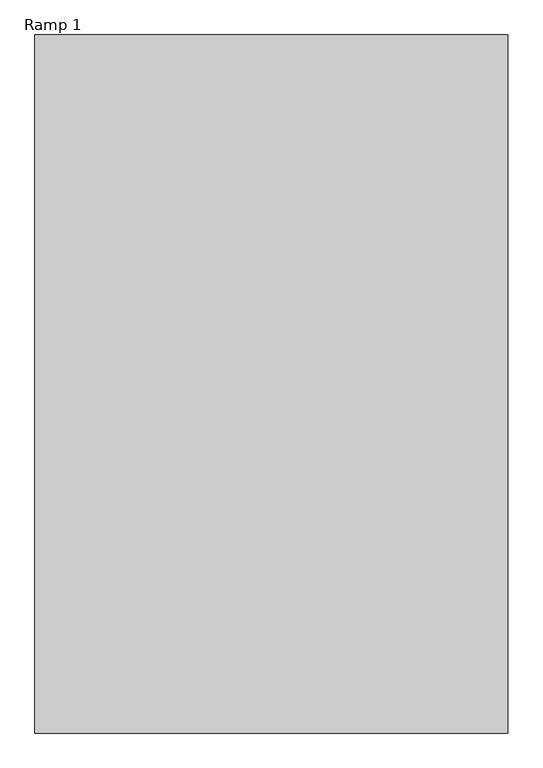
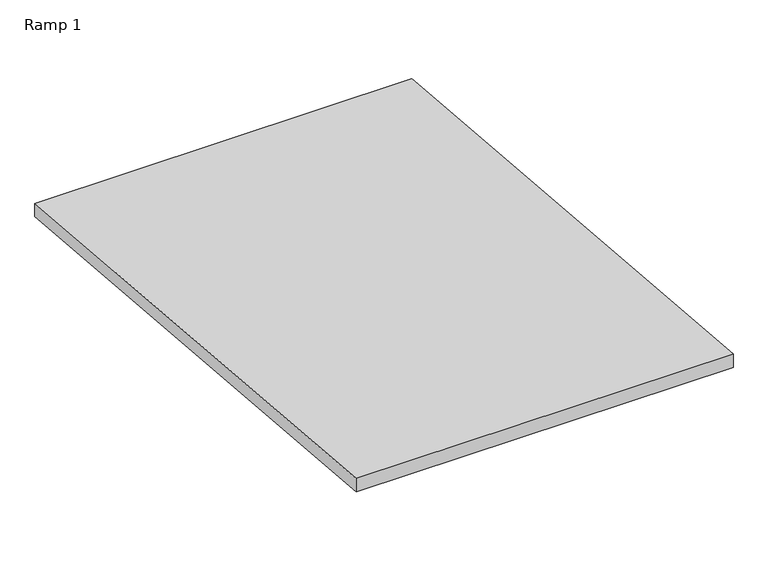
"""IFC4 building model written with IfcOpenShell, lengths in millimetres: ramp geometry, Ramp 1."""

from ifc_helpers import new_model, si_unit, frame, origin, place, context, project, spatial, polyline, outline, extrude, source, transform, mapped, element, save


def ramp_1_197fc1fa(model_context):
    return source(origin(), model_context, "Body", "SweptSolid", [
        extrude(outline(polyline([(-5369.5584995, 672.3813853), (539.0181239, 180.0), (539.0181239, 29.4800678), (-5369.5584995, 521.861453), (-5369.5584995, 672.3813853)])), frame((5434.7097075, 0.0, 0.0), z_axis=(1.0, 0.0, 0.0), x_axis=(0.0, 1.0, 0.0)), (0.0, 0.0, 1.0), 4001.1527039),
    ])


if __name__ == "__main__":
    model = new_model("IFC4")
    model_context = context("Model", 3, world=origin())
    ifc_project = project(units=[si_unit("LENGTHUNIT", "METRE", prefix="MILLI")], contexts=[model_context])
    site = spatial("IfcSite", under=ifc_project)
    building = spatial("IfcBuilding", under=site)
    placement = place(None, origin())
    ramp_1_shape = ramp_1_197fc1fa(model_context)
    element("IfcRamp", 1, ObjectType="Ramp 1", at=placement, inside=building, context=model_context, shape_type="MappedRepresentation", body=[
        mapped(ramp_1_shape, transform((0.0, 0.0, 0.0), x_axis=(1.0, 0.0, 0.0), y_axis=(0.0, 1.0, 0.0), z_axis=(0.0, 0.0, 1.0))),
    ])
    save(model, "model.ifc")
